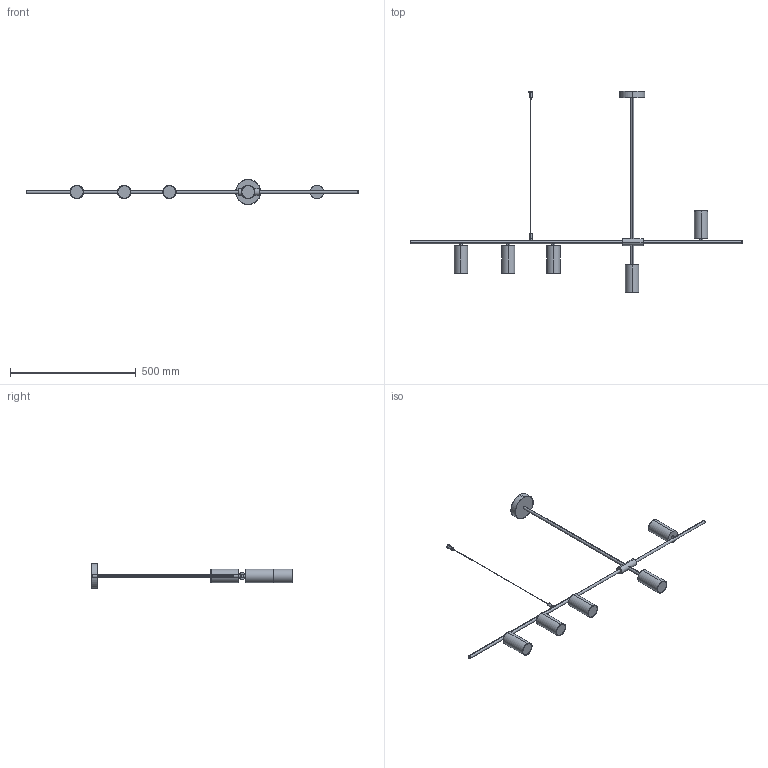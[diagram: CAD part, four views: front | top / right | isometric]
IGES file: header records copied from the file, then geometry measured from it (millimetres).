
Start section: SolidWorks IGES file using analytic representation for surfaces
Global section: file name: F:\燠隴矨\3D\2025-10\Cassandra Linear Chandelier-5Lights.IGS,15; native system: HSolidWorks 2022; preprocessor: SolidWorks 2022; author: MyPC; date: 251025.173743; units: millimetre
Bounding box: 1320 x 800 x 100 mm (x, y, z)
Surface area: 235549.1 mm2 (no closed solid volume)
Topology: 0 solids, 0 shells, 96 faces, 2616 edges, 2616 vertices
Faces by surface type: revolution 54, bspline 42
